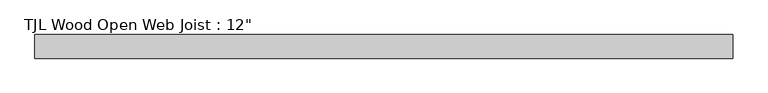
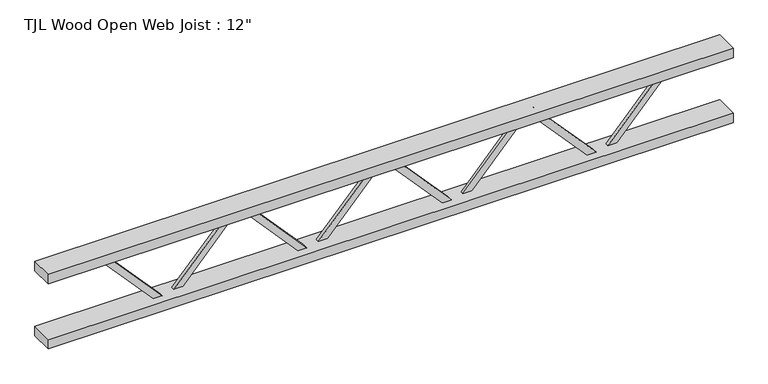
"""IFC4 building model written with IfcOpenShell, lengths in millimetres: beam geometry."""

from ifc_helpers import new_model, si_unit, frame, origin, place, context, project, spatial, polyline, outline, extrude, source, transform, mapped, element, save


def beam_4934201d(model_context):
    return source(origin(), model_context, "Body", "SweptSolid", [
        extrude(outline(polyline([(119.0625, 554.0375), (144.4625, 554.0375), (144.4625, 535.7091421), (-119.0625, 296.7903921), (-119.0625, 251.61875), (-144.4625, 251.61875), (-144.4625, 308.0471079), (119.0625, 546.9658579), (119.0625, 554.0375)])), frame((0.0, 0.0, 0.0), z_axis=(0.0, 1.0, 0.0), x_axis=(0.0, 0.0, 1.0)), (0.0, 0.0, 1.0), 12.7),
        extrude(outline(polyline([(144.4625, 0.0), (119.0625, 0.0), (119.0625, 7.0716421), (-144.4625, 245.9903921), (-144.4625, 302.41875), (-119.0625, 302.41875), (-119.0625, 257.2471079), (144.4625, 18.3283579), (144.4625, 0.0)])), frame((0.0, -12.7, 0.0), z_axis=(0.0, 1.0, 0.0), x_axis=(0.0, 0.0, 1.0)), (0.0, 0.0, 1.0), 12.7),
        extrude(outline(polyline([(119.0625, 0.0), (144.4625, 0.0), (144.4625, -18.3283579), (-119.0625, -257.2471079), (-119.0625, -302.41875), (-144.4625, -302.41875), (-144.4625, -245.9903921), (119.0625, -7.0716421), (119.0625, 0.0)])), frame((0.0, 0.0, 0.0), z_axis=(0.0, 1.0, 0.0), x_axis=(0.0, 0.0, 1.0)), (0.0, 0.0, 1.0), 12.7),
        extrude(outline(polyline([(144.4625, -554.0375), (119.0625, -554.0375), (119.0625, -546.9658579), (-144.4625, -308.0471079), (-144.4625, -251.61875), (-119.0625, -251.61875), (-119.0625, -296.7903921), (144.4625, -535.7091421), (144.4625, -554.0375)])), frame((0.0, -12.7, 0.0), z_axis=(0.0, 1.0, 0.0), x_axis=(0.0, 0.0, 1.0)), (0.0, 0.0, 1.0), 12.7),
        extrude(outline(polyline([(119.0625, 1108.075), (144.4625, 1108.075), (144.4625, 1089.7466421), (-119.0625, 850.8278921), (-119.0625, 805.65625), (-144.4625, 805.65625), (-144.4625, 862.0846079), (119.0625, 1101.0033579), (119.0625, 1108.075)])), frame((0.0, 0.0, 0.0), z_axis=(0.0, 1.0, 0.0), x_axis=(0.0, 0.0, 1.0)), (0.0, 0.0, 1.0), 12.7),
        extrude(outline(polyline([(144.4625, 554.0375), (119.0625, 554.0375), (119.0625, 561.1091421), (-144.4625, 800.0278921), (-144.4625, 856.45625), (-119.0625, 856.45625), (-119.0625, 811.2846079), (144.4625, 572.3658579), (144.4625, 554.0375)])), frame((0.0, -12.7, 0.0), z_axis=(0.0, 1.0, 0.0), x_axis=(0.0, 0.0, 1.0)), (0.0, 0.0, 1.0), 12.7),
        extrude(outline(polyline([(119.0625, -554.0375), (144.4625, -554.0375), (144.4625, -572.3658579), (-119.0625, -811.2846079), (-119.0625, -856.45625), (-144.4625, -856.45625), (-144.4625, -800.0278921), (119.0625, -561.1091421), (119.0625, -554.0375)])), frame((0.0, 0.0, 0.0), z_axis=(0.0, 1.0, 0.0), x_axis=(0.0, 0.0, 1.0)), (0.0, 0.0, 1.0), 12.7),
        extrude(outline(polyline([(144.4625, -1108.075), (119.0625, -1108.075), (119.0625, -1101.0033579), (-144.4625, -862.0846079), (-144.4625, -805.65625), (-119.0625, -805.65625), (-119.0625, -850.8278921), (144.4625, -1089.7466421), (144.4625, -1108.075)])), frame((0.0, -12.7, 0.0), z_axis=(0.0, 1.0, 0.0), x_axis=(0.0, 0.0, 1.0)), (0.0, 0.0, 1.0), 12.7),
        extrude(outline(polyline([(1311.275, 44.45), (1311.275, -44.45), (-1311.275, -44.45), (-1311.275, 44.45), (1311.275, 44.45)])), frame((0.0, 0.0, 112.7125), z_axis=(0.0, 0.0, 1.0), x_axis=(1.0, 0.0, 0.0)), (0.0, 0.0, 1.0), 38.1),
        extrude(outline(polyline([(1311.275, 44.45), (1311.275, -44.45), (-1311.275, -44.45), (-1311.275, 44.45), (1311.275, 44.45)])), frame((0.0, 0.0, -150.8125), z_axis=(0.0, 0.0, 1.0), x_axis=(1.0, 0.0, 0.0)), (0.0, 0.0, 1.0), 38.1),
    ])


if __name__ == "__main__":
    model = new_model("IFC4")
    model_context = context("Model", 3, world=origin())
    ifc_project = project(units=[si_unit("LENGTHUNIT", "METRE", prefix="MILLI")], contexts=[model_context])
    site = spatial("IfcSite", under=ifc_project)
    building = spatial("IfcBuilding", under=site)
    placement = place(None, origin())
    beam_shape = beam_4934201d(model_context)
    element("IfcBeam", 1, ObjectType="TJL Wood Open Web Joist : 12\"", at=placement, inside=building, context=model_context, shape_type="MappedRepresentation", body=[
        mapped(beam_shape, transform((0.0, 0.0, 0.0), x_axis=(1.0, 0.0, 0.0), y_axis=(0.0, 1.0, 0.0), z_axis=(0.0, 0.0, 1.0))),
    ])
    save(model, "model.ifc")
